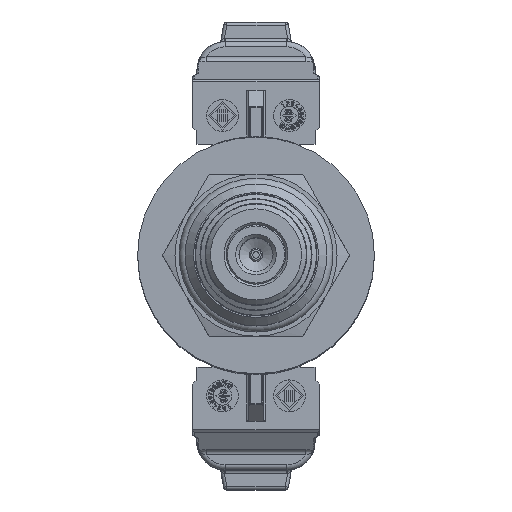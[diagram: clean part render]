
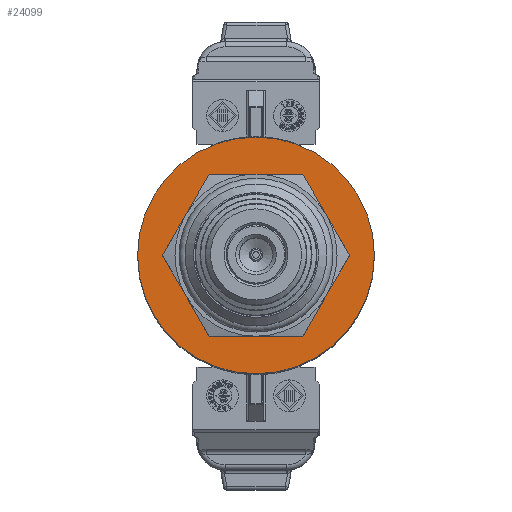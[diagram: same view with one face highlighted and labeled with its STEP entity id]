
A CAD part, top view. The second image highlights one B-rep face of the part: STEP entity #24099.
In plain terms, the highlighted planar face has unit normal (0, 0, 1).
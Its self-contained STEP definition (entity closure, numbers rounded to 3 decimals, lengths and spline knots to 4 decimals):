
#1510=FACE_BOUND('',#4203,.T.);
#2763=FACE_OUTER_BOUND('',#4202,.T.);
#4202=EDGE_LOOP('',(#21068,#21069));
#4203=EDGE_LOOP('',(#21070,#21071));
#8280=CIRCLE('',#25873,0.7303);
#8281=CIRCLE('',#25874,0.7303);
#8294=CIRCLE('',#25888,0.374);
#8295=CIRCLE('',#25889,0.374);
#10171=VERTEX_POINT('',#47252);
#10172=VERTEX_POINT('',#47253);
#10199=VERTEX_POINT('',#47408);
#10200=VERTEX_POINT('',#47410);
#13183=EDGE_CURVE('',#10171,#10172,#8280,.T.);
#13184=EDGE_CURVE('',#10172,#10171,#8281,.T.);
#13213=EDGE_CURVE('',#10199,#10200,#8294,.T.);
#13214=EDGE_CURVE('',#10200,#10199,#8295,.T.);
#21068=ORIENTED_EDGE('',*,*,#13183,.T.);
#21069=ORIENTED_EDGE('',*,*,#13184,.T.);
#21070=ORIENTED_EDGE('',*,*,#13214,.F.);
#21071=ORIENTED_EDGE('',*,*,#13213,.F.);
#21573=PLANE('',#26642);
#24099=ADVANCED_FACE('',(#2763,#1510),#21573,.T.);
#25873=AXIS2_PLACEMENT_3D('',#47254,#31020,#31021);
#25874=AXIS2_PLACEMENT_3D('',#47255,#31022,#31023);
#25888=AXIS2_PLACEMENT_3D('',#47411,#31056,#31057);
#25889=AXIS2_PLACEMENT_3D('',#47412,#31058,#31059);
#26642=AXIS2_PLACEMENT_3D('',#52801,#33214,#33215);
#31020=DIRECTION('center_axis',(0.,0.,
1.));
#31021=DIRECTION('ref_axis',(-1.,0.,0.));
#31022=DIRECTION('center_axis',(0.,0.,
1.));
#31023=DIRECTION('ref_axis',(-1.,0.,0.));
#31056=DIRECTION('center_axis',(0.,0.,
1.));
#31057=DIRECTION('ref_axis',(-1.,0.,0.));
#31058=DIRECTION('center_axis',(0.,0.,
1.));
#31059=DIRECTION('ref_axis',(-1.,0.,0.));
#33214=DIRECTION('center_axis',(0.,0.,
1.));
#33215=DIRECTION('ref_axis',(-1.,0.,0.));
#47252=CARTESIAN_POINT('',(-1.4499,0.0044,1.2113));
#47253=CARTESIAN_POINT('',(0.0107,0.0044,1.2113));
#47254=CARTESIAN_POINT('Origin',(-0.7196,0.0044,
1.2113));
#47255=CARTESIAN_POINT('Origin',(-0.7196,0.0044,
1.2113));
#47408=CARTESIAN_POINT('',(-0.3456,0.0044,1.2113));
#47410=CARTESIAN_POINT('',(-1.0936,0.0044,1.2113));
#47411=CARTESIAN_POINT('Origin',(-0.7196,0.0044,
1.2113));
#47412=CARTESIAN_POINT('Origin',(-0.7196,0.0044,
1.2113));
#52801=CARTESIAN_POINT('Origin',(-0.7196,0.0044,
1.2113));
